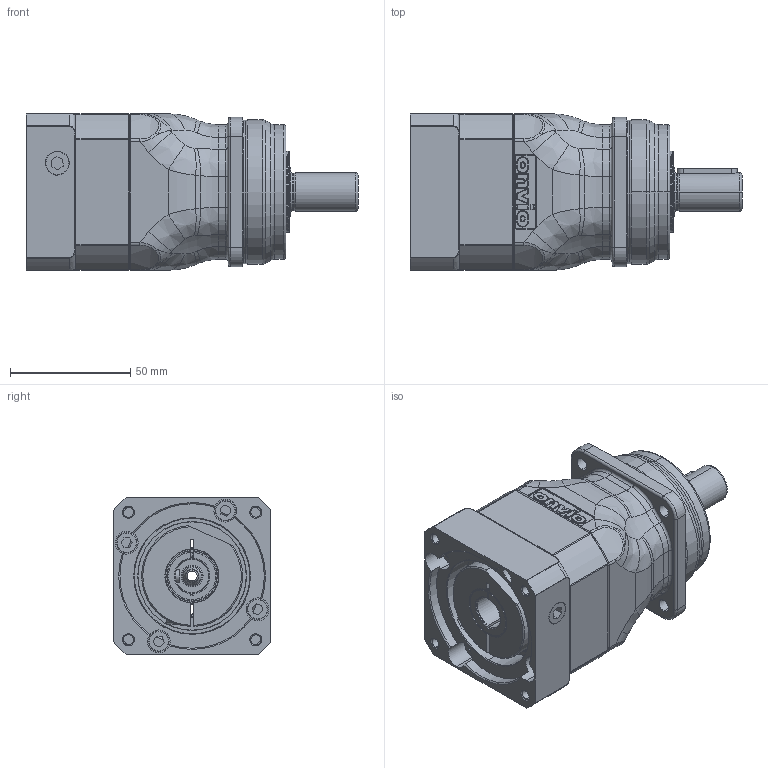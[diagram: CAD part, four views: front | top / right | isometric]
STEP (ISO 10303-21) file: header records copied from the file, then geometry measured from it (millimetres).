
FILE_DESCRIPTION (( 'STEP AP214' ), '1' );
FILE_NAME ('AH-010-0RR-FFF-MMM-S-LL-XXX-AXX-0000.STEP', '2019-10-11T20:25:08', ( '' ), ( '' ), 'SwSTEP 2.0', 'SolidWorks 2019', '' );
FILE_SCHEMA (( 'AUTOMOTIVE_DESIGN' ));
Length unit declared in the file: millimetre
Products named in the file (1): AH-010-0RR-FFF-MMM-S-LL-XXX-AXX-0000
Bounding box: 138 x 65.08 x 65 mm (x, y, z)
Surface area: 49118.5 mm2 (no closed solid volume)
Topology: 0 solids, 85 shells, 988 faces, 3974 edges, 2992 vertices
Faces by surface type: cylinder 329, plane 275, torus 192, bspline 113, cone 79
Entity records: 63741 total; most frequent: CARTESIAN_POINT 22720, ORIENTED_EDGE 5721, DIRECTION 5665, EDGE_CURVE 3944, VERTEX_POINT 2992, AXIS2_PLACEMENT_3D 1985, VECTOR 1695, LINE 1695
